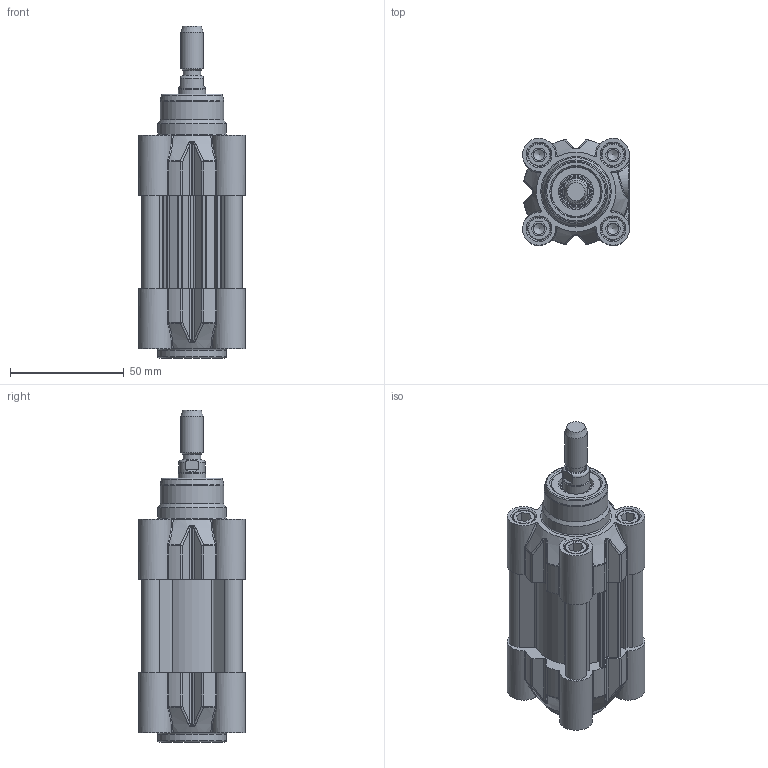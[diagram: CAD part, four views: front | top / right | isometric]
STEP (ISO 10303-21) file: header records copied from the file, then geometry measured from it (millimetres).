
FILE_DESCRIPTION(/* description */ ('CILINDRO D.E. MAGNETICO AMMORTIZZATO ISO 15552'),/* implementation_level */ '2;1');
FILE_NAME(/* name */ 'T:\Archivio Inventor\- 00 NUOVI STP PER SITO CON STELO CHE SI MUOVE\SERIE H - U\SERIE HDM\HDM032-TUBO NUOVO\HDM032.000.GS.M.stp',/* time_stamp */ '2018-07-25T10:26:08+02:00',/* author */ ('carlo.corazza'),/* organization */ (''),/* preprocessor_version */ 'ST-DEVELOPER v16.5',/* originating_system */ 'Autodesk Inventor 2017',/* authorisation */ '');
FILE_SCHEMA (('AUTOMOTIVE_DESIGN { 1 0 10303 214 3 1 1 }'));
Length unit declared in the file: millimetre
Products named in the file (5): HDM032.000.GS.M; TP; STELO-000; TA; CORPO-000
Assembly tree (4 placements, depth 2):
  HDM032.000.GS.M
    TP
    STELO-000
    TA
    CORPO-000
Bounding box: 47 x 47 x 146 mm (x, y, z)
Volume: 124990.9 mm3; surface area: 67117.5 mm2
Topology: 4 solids, 18 shells, 969 faces, 2356 edges, 1494 vertices
Faces by surface type: plane 330, cylinder 260, bspline 190, cone 86, torus 83, sphere 20
Full cylindrical faces by diameter (mm): 2 x2, 2.1 x2, 4 x2, 4.5 x2, 4.917 x8, 6 x8, 6.2 x8, 6.3 x4, 7 x2, 7.8 x4, 7.9 x3, 8 x4, 8.566 x2, 10 x9, 10.3 x8, 11.6 x1, 12 x1, 12.8 x1, 12.847 x1, 16 x1, 17 x2, 22 x3, 28 x1, 30 x2, 32 x1
Entity records: 31186 total; most frequent: CARTESIAN_POINT 9171, ORIENTED_EDGE 4162, DIRECTION 4048, EDGE_CURVE 2081, AXIS2_PLACEMENT_3D 1569, VERTEX_POINT 1436, EDGE_LOOP 1302, FACE_OUTER_BOUND 969
